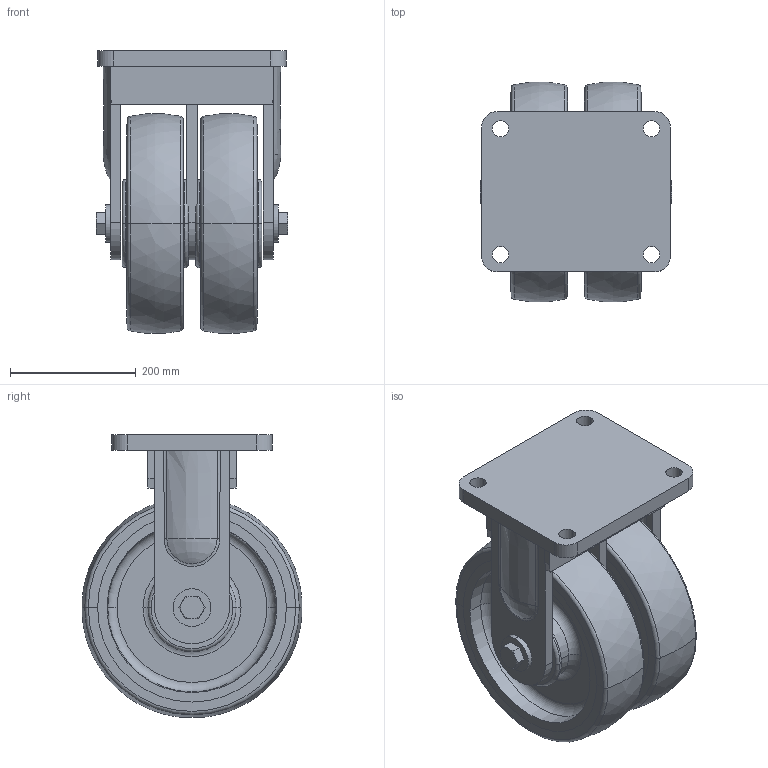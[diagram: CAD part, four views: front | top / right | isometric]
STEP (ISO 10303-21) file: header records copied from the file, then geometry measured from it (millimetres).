
FILE_DESCRIPTION((''),'2;1');
FILE_NAME('PRT0001','2025-08-29T13:43:15',('Administrator'),(''),'CREO PARAMETRIC BY PTC INC, 2022124','CREO PARAMETRIC BY PTC INC, 2022124','');
FILE_SCHEMA(('AUTOMOTIVE_DESIGN { 1 0 10303 214 1 1 1 1 }'));
Length unit declared in the file: millimetre
Products named in the file (1): PRT0001
Bounding box: 304 x 349 x 449.5 mm (x, y, z)
Surface area: 1249102.1 mm2 (no closed solid volume)
Topology: 0 solids, 22 shells, 189 faces, 484 edges, 328 vertices
Faces by surface type: plane 66, cone 36, torus 32, bspline 28, cylinder 27
Entity records: 10594 total; most frequent: CARTESIAN_POINT 4683, DIRECTION 959, ORIENTED_EDGE 832, EDGE_CURVE 484, AXIS2_PLACEMENT_3D 401, VERTEX_POINT 328, CIRCLE 230, EDGE_LOOP 227
